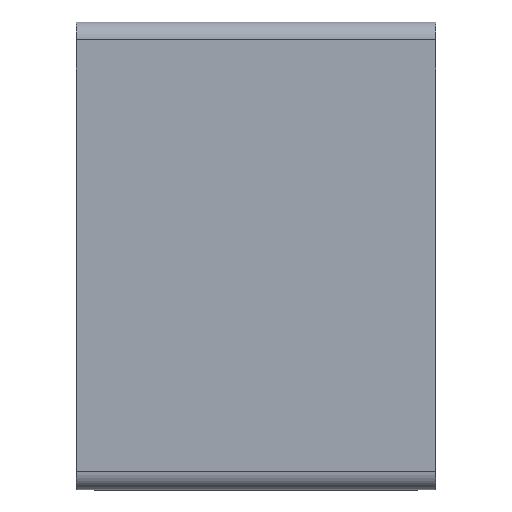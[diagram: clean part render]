
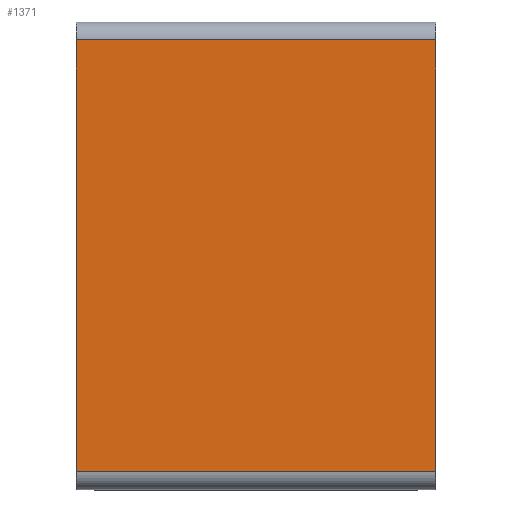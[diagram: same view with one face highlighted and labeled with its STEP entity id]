
A CAD part, top view. The second image highlights one B-rep face of the part: STEP entity #1371.
In plain terms, the highlighted planar face has unit normal (0, 0, 1).
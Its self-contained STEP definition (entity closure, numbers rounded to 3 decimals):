
#143=PLANE('',#1512);
#206=FACE_OUTER_BOUND('',#278,.T.);
#278=EDGE_LOOP('',(#1211,#1212,#1213,#1214));
#305=LINE('',#2001,#431);
#319=LINE('',#2040,#445);
#320=LINE('',#2045,#446);
#394=LINE('',#2268,#520);
#431=VECTOR('',#1586,10.);
#445=VECTOR('',#1624,10.);
#446=VECTOR('',#1631,10.);
#520=VECTOR('',#1859,10.);
#617=VERTEX_POINT('',#1998);
#618=VERTEX_POINT('',#2000);
#631=VERTEX_POINT('',#2039);
#632=VERTEX_POINT('',#2043);
#746=EDGE_CURVE('',#618,#617,#305,.T.);
#765=EDGE_CURVE('',#618,#631,#319,.T.);
#768=EDGE_CURVE('',#631,#632,#320,.T.);
#878=EDGE_CURVE('',#632,#617,#394,.T.);
#1211=ORIENTED_EDGE('',*,*,#768,.F.);
#1212=ORIENTED_EDGE('',*,*,#765,.F.);
#1213=ORIENTED_EDGE('',*,*,#746,.T.);
#1214=ORIENTED_EDGE('',*,*,#878,.F.);
#1371=ADVANCED_FACE('',(#206),#143,.T.);
#1512=AXIS2_PLACEMENT_3D('',#2269,#1860,#1861);
#1586=DIRECTION('',(-1.,0.,0.));
#1624=DIRECTION('',(0.,-1.,0.));
#1631=DIRECTION('',(-1.,0.,0.));
#1859=DIRECTION('',(0.,1.,0.));
#1860=DIRECTION('center_axis',(0.,0.,1.));
#1861=DIRECTION('ref_axis',(1.,0.,0.));
#1998=CARTESIAN_POINT('',(-10.,12.,2.));
#2000=CARTESIAN_POINT('',(10.,12.,2.));
#2001=CARTESIAN_POINT('',(5.,12.,2.));
#2039=CARTESIAN_POINT('',(10.,-12.,2.));
#2040=CARTESIAN_POINT('',(10.,-10.,2.));
#2043=CARTESIAN_POINT('',(-10.,-12.,2.));
#2045=CARTESIAN_POINT('',(0.,-12.,2.));
#2268=CARTESIAN_POINT('',(-10.,10.,2.));
#2269=CARTESIAN_POINT('Origin',(0.,0.,2.));
